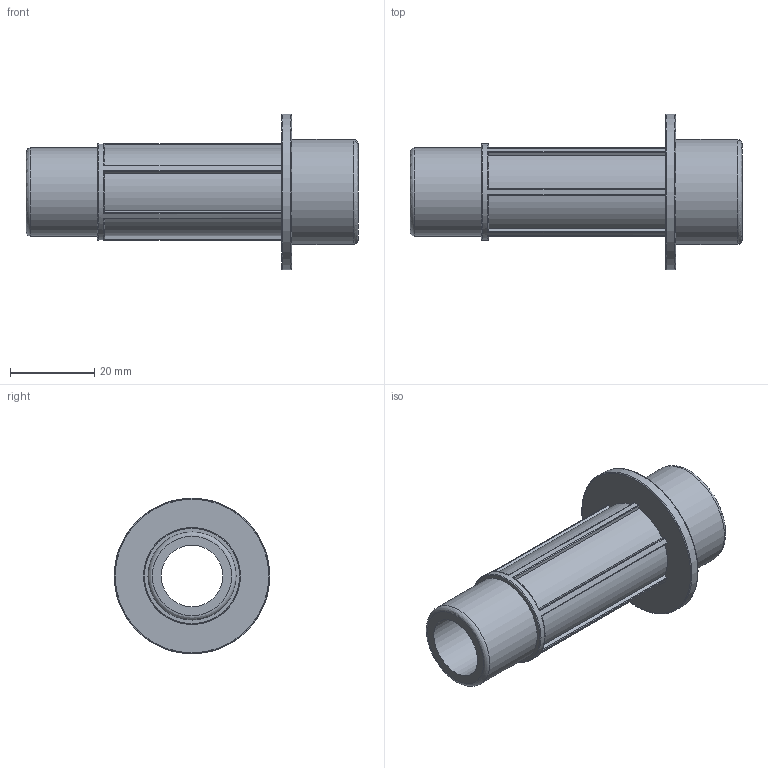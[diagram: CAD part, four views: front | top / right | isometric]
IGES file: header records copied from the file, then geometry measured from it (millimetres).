
Global section: file name: 078901025005.ipt; native system: Autodesk Inventor 2015; preprocessor: unknown; author: KIM; date: 20180409.130839; units: millimetre
Bounding box: 79 x 37 x 37 mm (x, y, z)
Volume: 18459.4 mm3; surface area: 11502.1 mm2
Topology: 1 solids, 1 shells, 57 faces, 163 edges, 111 vertices
Faces by surface type: plane 23, cylinder 22, revolution 12
Full cylindrical faces by diameter (mm): 20.955 x1, 23.05 x1, 25 x1, 37 x1
